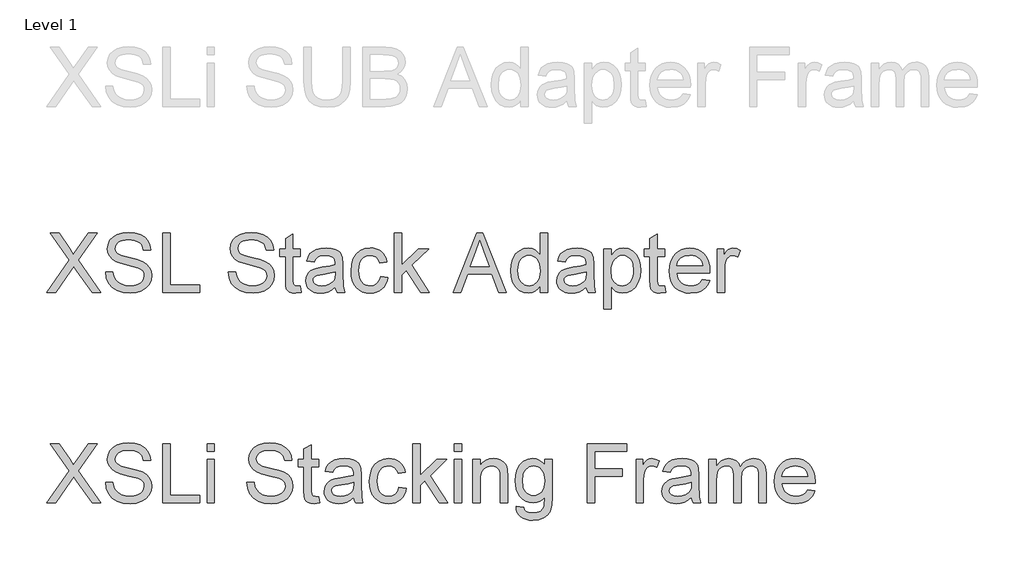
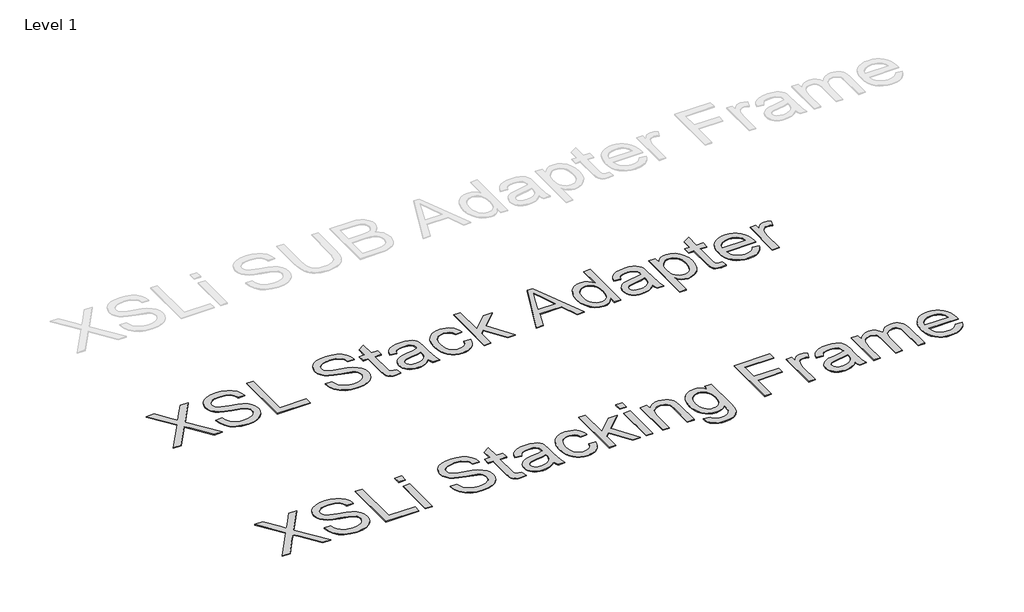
# One storey, part 27 of 52: 2 proxies.
"""IFC4 building model written with IfcOpenShell, lengths in millimetres."""

from ifc_helpers import new_model, si_unit, origin, origin_with_axes, place, context, project, spatial, polyline, outline, extrude, element, save

model = new_model("IFC4")

# Units and contexts
model_context = context("Model", 3, world=origin())
ifc_project = project(units=[si_unit("LENGTHUNIT", "METRE", prefix="MILLI")], contexts=[model_context])

# Site, building, storey
site = spatial("IfcSite", under=ifc_project)
building = spatial("IfcBuilding", under=site)
storey = spatial("IfcBuildingStorey", under=building, Name="Level 1", Elevation=0.0)

# Proxies
placement = place(None, origin())
element("IfcBuildingElementProxy", 1, Name="400mm Arial", ObjectType="400mm Arial", at=placement, inside=storey, context=model_context, shape_type="SweptSolid", body=[
    extrude(outline(polyline([(8004.9788586, -68822.6117308), (8159.881704, -68603.6483673), (8030.0929361, -68420.7864902), (8090.3274814, -68420.7864902), (8163.4133711, -68523.695347), (8188.0369394, -68563.81901), (8216.8788878, -68523.008634), (8289.1799626, -68420.7864902), (8350.2974247, -68420.7864902), (8220.5086568, -68604.2369785), (8375.4115022, -68822.6117308), (8315.1769569, -68822.6117308), (8211.9737945, -68677.0285626), (8190.489486, -68646.8131881), (8166.8469364, -68679.9716186), (8066.0963207, -68822.6117308), (8004.9788586, -68822.6117308)])), origin_with_axes(), (0.0, 0.0, 1.0), 5.0),
    extrude(outline(polyline([(8406.8040992, -68684.4843044), (8457.0322542, -68684.4843044), (8462.7957388, -68712.3574969), (8473.219062, -68734.7615104), (8489.4794462, -68752.5424735), (8512.7541138, -68766.5465148), (8541.2036547, -68775.6332001), (8572.9886591, -68778.6620952), (8600.9722162, -68776.3689641), (8625.4731571, -68769.4895707), (8645.3265221, -68758.6002637), (8659.3673516, -68744.2773913), (8667.7182729, -68727.8330662), (8670.5019133, -68710.5794006), (8668.4172487, -68693.7671934), (8662.1632547, -68679.2358546), (8649.4590632, -68666.8382314), (8628.0238056, -68656.4271709), (8554.8888649, -68637.2482562), (8506.8802646, -68624.5563274), (8476.162118, -68612.4775352), (8451.158405, -68595.5794889), (8433.4387556, -68575.1007245), (8422.8805423, -68551.4827004), (8419.3611379, -68525.166875), (8423.7144082, -68495.7485781), (8436.774219, -68468.316844), (8458.1972139, -68445.0667019), (8487.6400362, -68428.1931811), (8522.9812332, -68417.9292734), (8562.0993521, -68414.5079709), (8604.4793579, -68418.0886889), (8641.561863, -68428.8308432), (8672.0224922, -68446.5137044), (8694.5368703, -68470.9165435), (8708.7861663, -68500.5187813), (8714.451549, -68533.7998392), (8664.2233939, -68533.7998392), (8655.0018186, -68503.8297193), (8646.6386345, -68491.9716563), (8635.773853, -68482.198258), (8605.7301567, -68469.1016589), (8564.0613894, -68464.7361259), (8521.4116034, -68469.052608), (8505.1082996, -68474.4482106), (8492.152722, -68482.0020542), (8475.2301503, -68501.0583416), (8469.589293, -68523.695347), (8473.586944, -68542.996889), (8485.5798971, -68558.5215092), (8513.9313362, -68572.4029232), (8567.5930565, -68586.5786427), (8622.9715595, -68600.0431238), (8656.4733465, -68611.7908221), (8685.1068285, -68630.0132436), (8705.0828208, -68652.5030963), (8716.8182565, -68679.0151254), (8720.7300684, -68709.3040763), (8716.2296453, -68740.2674776), (8702.7283761, -68769.3914689), (8680.7780837, -68794.4564955), (8650.9305912, -68813.2430027), (8615.0375712, -68824.9784383), (8574.9506964, -68828.8902502), (8525.7403482, -68824.67187), (8485.2365405, -68812.0167294), (8452.9732895, -68790.8757774), (8428.4846114, -68761.1999631), (8412.7637875, -68725.0494257), (8406.8040992, -68684.4843044)])), origin_with_axes(), (0.0, 0.0, 1.0), 5.0),
    extrude(outline(polyline([(8796.072301, -68822.6117308), (8796.072301, -68420.7864902), (8846.3004561, -68420.7864902), (8846.3004561, -68772.3835758), (9047.2130764, -68772.3835758), (9047.2130764, -68822.6117308), (8796.072301, -68822.6117308)])), origin_with_axes(), (0.0, 0.0, 1.0), 5.0),
    extrude(outline(polyline([(9097.4412314, -68822.6117308), (9097.4412314, -68527.5213198), (9147.6693865, -68527.5213198), (9147.6693865, -68822.6117308), (9097.4412314, -68822.6117308)])), origin_with_axes(), (0.0, 0.0, 1.0), 5.0),
    extrude(outline(polyline([(9097.4412314, -68471.0146453), (9097.4412314, -68420.7864902), (9147.6693865, -68420.7864902), (9147.6693865, -68471.0146453), (9097.4412314, -68471.0146453)])), origin_with_axes(), (0.0, 0.0, 1.0), 5.0),
    extrude(outline(polyline([(9367.417565, -68684.4843044), (9417.64572, -68684.4843044), (9423.4092046, -68712.3574969), (9433.8325278, -68734.7615104), (9450.092912, -68752.5424735), (9473.3675796, -68766.5465148), (9501.8171205, -68775.6332001), (9533.6021249, -68778.6620952), (9561.585682, -68776.3689641), (9586.0866229, -68769.4895707), (9605.9399879, -68758.6002637), (9619.9808174, -68744.2773913), (9628.3317387, -68727.8330662), (9631.1153791, -68710.5794006), (9629.0307145, -68693.7671934), (9622.7767205, -68679.2358546), (9610.072529, -68666.8382314), (9588.6372714, -68656.4271709), (9515.5023308, -68637.2482562), (9467.4937304, -68624.5563274), (9436.7755838, -68612.4775352), (9411.7718708, -68595.5794889), (9394.0522214, -68575.1007245), (9383.4940081, -68551.4827004), (9379.9746037, -68525.166875), (9384.327874, -68495.7485781), (9397.3876848, -68468.316844), (9418.8106797, -68445.0667019), (9448.253502, -68428.1931811), (9483.594699, -68417.9292734), (9522.7128179, -68414.5079709), (9565.0928237, -68418.0886889), (9602.1753288, -68428.8308432), (9632.635958, -68446.5137044), (9655.1503361, -68470.9165435), (9669.3996321, -68500.5187813), (9675.0650148, -68533.7998392), (9624.8368597, -68533.7998392), (9615.6152844, -68503.8297193), (9607.2521003, -68491.9716563), (9596.3873188, -68482.198258), (9566.3436225, -68469.1016589), (9524.6748552, -68464.7361259), (9482.0250692, -68469.052608), (9465.7217654, -68474.4482106), (9452.7661878, -68482.0020542), (9435.8436161, -68501.0583416), (9430.2027588, -68523.695347), (9434.2004098, -68542.996889), (9446.1933629, -68558.5215092), (9474.544802, -68572.4029232), (9528.2065223, -68586.5786427), (9583.5850253, -68600.0431238), (9617.0868124, -68611.7908221), (9645.7202943, -68630.0132436), (9665.6962866, -68652.5030963), (9677.4317223, -68679.0151254), (9681.3435342, -68709.3040763), (9676.8431111, -68740.2674776), (9663.3418419, -68769.3914689), (9641.3915495, -68794.4564955), (9611.544057, -68813.2430027), (9575.651037, -68824.9784383), (9535.5641622, -68828.8902502), (9486.353814, -68824.67187), (9445.8500063, -68812.0167294), (9413.5867554, -68790.8757774), (9389.0980772, -68761.1999631), (9373.3772533, -68725.0494257), (9367.417565, -68684.4843044)])), origin_with_axes(), (0.0, 0.0, 1.0), 5.0),
    extrude(outline(polyline([(9857.1420769, -68780.7222343), (9863.4205963, -68824.0832588), (9825.8475819, -68828.8902502), (9801.7390485, -68826.8055856), (9783.7618816, -68820.5515917), (9771.0576901, -68810.9130834), (9762.7680824, -68798.6748757), (9758.2063457, -68777.656551), (9756.6857668, -68741.6776919), (9756.6857668, -68577.7494749), (9719.0146505, -68577.7494749), (9719.0146505, -68527.5213198), (9756.6857668, -68527.5213198), (9756.6857668, -68455.8088562), (9806.9139219, -68426.2801947), (9806.9139219, -68527.5213198), (9857.1420769, -68527.5213198), (9857.1420769, -68577.7494749), (9806.9139219, -68577.7494749), (9806.9139219, -68740.2061639), (9809.5626722, -68766.1050564), (9818.1465855, -68775.2775808), (9835.265361, -68778.6620952), (9857.1420769, -68780.7222343)])), origin_with_axes(), (0.0, 0.0, 1.0), 5.0),
    extrude(outline(polyline([(10095.7258135, -68784.9406145), (10071.7276447, -68805.5174808), (10047.0182374, -68818.9819618), (10021.0335058, -68826.4131781), (9993.2093642, -68828.8902502), (9970.8452046, -68827.4003281), (9951.2340286, -68822.9305619), (9934.3758361, -68815.4809515), (9920.2706273, -68805.0514969), (9909.1329999, -68792.3043858), (9901.1775518, -68777.9018057), (9896.4042829, -68761.8437566), (9894.8131932, -68744.1302385), (9897.2166889, -68723.3081176), (9904.4271761, -68704.3989831), (9915.549475, -68688.2121753), (9929.6884064, -68675.5570346), (9946.3044098, -68665.9921028), (9964.8579251, -68659.0759213), (10008.3170515, -68651.5220776), (10059.673378, -68643.5758265), (10095.4315079, -68634.2561493), (10095.7258135, -68623.0725367), (10092.2677228, -68600.6562604), (10081.8934505, -68585.9900315), (10058.6923594, -68575.1007245), (10026.3677947, -68571.4709555), (9996.4467258, -68573.8867139), (9975.5510285, -68581.1339892), (9961.3017325, -68594.5371566), (9951.3198677, -68615.4205912), (9901.0917126, -68609.1420718), (9909.8105159, -68581.6735495), (9922.8212758, -68560.0911391), (9941.3380029, -68543.5855002), (9966.5747078, -68531.3472925), (9997.4400072, -68523.7689234), (10032.8425178, -68521.2428004), (10066.798026, -68523.4746178), (10093.7147253, -68530.1700701), (10114.0095487, -68540.2377741), (10128.0994291, -68552.5863464), (10137.4436318, -68567.8534492), (10143.501422, -68586.6767446), (10145.9539686, -68630.6263803), (10145.9539686, -68693.1172685), (10148.5046171, -68780.3788778), (10158.5110074, -68822.6117308), (10108.2828523, -68822.6117308), (10100.2384994, -68805.1495988), (10095.7258135, -68784.9406145)]), holes=[polyline([(10095.7258135, -68684.4843044), (10061.9787719, -68692.8474884), (10014.6936727, -68699.8862973), (9971.479801, -68708.0287521), (9960.2348747, -68713.5960329), (9951.9084789, -68721.2725039), (9946.758131, -68730.4695538), (9945.0413483, -68740.5985714), (9948.7814819, -68755.5345804), (9960.0018828, -68767.7727881), (9978.4572962, -68775.9397684), (10003.9024675, -68778.6620952), (10030.8804805, -68775.6577255), (10054.7192338, -68766.6446166), (10074.0453013, -68753.3640766), (10087.4852569, -68737.5574136), (10093.4449452, -68721.2725039), (10095.4315079, -68698.7090749), (10095.7258135, -68684.4843044)])]), origin_with_axes(), (0.0, 0.0, 1.0), 5.0),
    extrude(outline(polyline([(10403.3732634, -68715.8769013), (10453.6014185, -68722.1554207), (10448.1383708, -68745.8562182), (10439.5973772, -68766.8285576), (10427.9784375, -68785.0724389), (10413.2815518, -68800.5878621), (10396.1259881, -68812.9701569), (10377.1310144, -68821.8146532), (10356.2966307, -68827.121351), (10333.6228371, -68828.8902502), (10305.4522733, -68826.4223752), (10280.1941087, -68819.01875), (10257.8483431, -68806.6793748), (10238.4149767, -68789.4042494), (10222.6849558, -68767.5183364), (10211.4492265, -68741.3465981), (10204.7077889, -68710.8890346), (10202.4606431, -68676.1456458), (10206.2988786, -68631.4479834), (10217.813585, -68592.7100093), (10237.1887034, -68561.427777), (10264.6081748, -68539.0973399), (10297.410986, -68525.7064353), (10332.936124, -68521.2428004), (10355.2205759, -68522.775642), (10375.3774435, -68527.374167), (10393.406727, -68535.0383752), (10409.3084262, -68545.7682667), (10422.8127611, -68559.3185869), (10433.6499516, -68575.444081), (10441.8199976, -68594.1447491), (10447.3228991, -68615.4205912), (10397.094744, -68621.6991105), (10387.9835332, -68599.7856064), (10373.795551, -68584.0770452), (10355.3156121, -68574.6224779), (10333.3285315, -68571.4709555), (10316.2618726, -68573.0221912), (10300.8690768, -68577.6758985), (10287.1501441, -68585.4320772), (10275.1050744, -68596.2907274), (10265.2979535, -68610.5032352), (10258.2928672, -68628.3209865), (10254.0898154, -68649.7439813), (10252.6887982, -68674.7722197), (10258.1702399, -68721.8488524), (10265.022042, -68739.7861653), (10274.6145651, -68753.989476), (10286.4205114, -68764.7837469), (10299.9125836, -68772.4939404), (10315.0907816, -68777.1200565), (10331.9551054, -68778.6620952), (10357.9643624, -68774.8115969), (10379.2892554, -68763.2601023), (10394.8016129, -68743.7133056), (10403.3732634, -68715.8769013)])), origin_with_axes(), (0.0, 0.0, 1.0), 5.0),
    extrude(outline(polyline([(10497.5510541, -68822.6117308), (10497.5510541, -68420.7864902), (10547.7792092, -68420.7864902), (10547.7792092, -68636.708696), (10660.4001507, -68527.5213198), (10729.8562714, -68527.5213198), (10615.8619038, -68638.0821221), (10736.1347907, -68822.6117308), (10677.4698753, -68822.6117308), (10579.8585192, -68673.0063861), (10547.7792092, -68704.1046775), (10547.7792092, -68822.6117308), (10497.5510541, -68822.6117308)])), origin_with_axes(), (0.0, 0.0, 1.0), 5.0),
    extrude(outline(polyline([(10780.0844264, -68822.6117308), (10780.0844264, -68527.5213198), (10830.3125815, -68527.5213198), (10830.3125815, -68822.6117308), (10780.0844264, -68822.6117308)])), origin_with_axes(), (0.0, 0.0, 1.0), 5.0),
    extrude(outline(polyline([(10780.0844264, -68471.0146453), (10780.0844264, -68420.7864902), (10830.3125815, -68420.7864902), (10830.3125815, -68471.0146453), (10780.0844264, -68471.0146453)])), origin_with_axes(), (0.0, 0.0, 1.0), 5.0),
    extrude(outline(polyline([(10905.6548141, -68822.6117308), (10905.6548141, -68527.5213198), (10955.8829692, -68527.5213198), (10955.8829692, -68568.7241032), (10973.3328385, -68547.9510332), (10994.2898495, -68533.1131261), (11018.7540022, -68524.2103818), (11046.7252965, -68521.2428004), (11071.4837548, -68523.6340334), (11094.1575485, -68530.8077323), (11113.066683, -68541.8687176), (11126.531164, -68555.9218098), (11135.6669002, -68572.9302207), (11141.5898004, -68592.8571621), (11144.2385507, -68641.4175855), (11144.2385507, -68822.6117308), (11094.0103957, -68822.6117308), (11094.0103957, -68648.1866142), (11092.5633931, -68622.2141453), (11088.2223856, -68603.7464692), (11080.2148208, -68590.5149801), (11067.7681467, -68580.2510724), (11051.8143308, -68573.6659847), (11033.285341, -68571.4709555), (11003.8670441, -68576.4005742), (10978.7897548, -68591.1894304), (10968.7680361, -68603.2620912), (10961.6096656, -68619.7615987), (10957.3146433, -68640.6879529), (10955.8829692, -68666.0411537), (10955.8829692, -68822.6117308), (10905.6548141, -68822.6117308)])), origin_with_axes(), (0.0, 0.0, 1.0), 5.0),
    extrude(outline(polyline([(11200.7452252, -68847.7258084), (11250.9733803, -68854.0043278), (11256.5161357, -68869.7006262), (11267.2582899, -68880.4918314), (11288.3747164, -68888.8795409), (11316.014917, -68891.6754441), (11345.4945276, -68888.5116589), (11367.4202945, -68879.0203034), (11382.6260836, -68863.8145143), (11391.9457608, -68843.5074282), (11395.3793261, -68784.9406145), (11378.6652208, -68801.4217279), (11360.0136036, -68813.1939518), (11339.4244746, -68820.2572861), (11316.8978338, -68822.6117308), (11289.3588008, -68819.87101), (11265.1123116, -68811.6488474), (11244.1583663, -68797.9452431), (11226.4969649, -68778.760197), (11212.4837265, -68755.7430469), (11202.4742706, -68730.5431302), (11196.468597, -68703.160447), (11194.4667058, -68673.5949973), (11198.0596866, -68633.0421387), (11208.8386291, -68595.7511672), (11226.4233885, -68564.1501038), (11250.43382, -68540.6669697), (11280.0483206, -68526.0988427), (11314.4452872, -68521.2428004), (11337.9345526, -68523.9896526), (11359.2533142, -68532.2302093), (11378.401572, -68545.9644705), (11395.3793261, -68565.1924361), (11395.3793261, -68527.5213198), (11445.6074812, -68527.5213198), (11445.6074812, -68782.2918642), (11442.1739159, -68841.1161952), (11431.87322, -68879.8541693), (11414.1290451, -68905.5445953), (11388.3650427, -68925.226282), (11355.1452986, -68937.7342699), (11315.0338984, -68941.9035991), (11290.4256586, -68940.4351369), (11268.3006222, -68936.02975), (11248.6587894, -68928.6874385), (11231.50016, -68918.4082024), (11217.6402058, -68905.179779), (11207.8943986, -68888.9899055), (11202.2627384, -68869.838582), (11200.7452252, -68847.7258084)]), holes=[polyline([(11244.6948609, -68670.161432), (11250.0536753, -68716.2325206), (11256.7521933, -68733.8693966), (11266.1301185, -68747.9071604), (11277.5313946, -68758.6155921), (11290.2999656, -68766.2644719), (11304.4358312, -68770.8537998), (11319.9389916, -68772.3835758), (11335.2888679, -68770.8629969), (11349.3572885, -68766.3012601), (11362.1442535, -68758.6983656), (11373.6497629, -68748.0543132), (11383.1564468, -68734.1545051), (11389.9469353, -68716.7843436), (11395.3793261, -68671.63296), (11389.7875198, -68628.0879945), (11382.7977619, -68610.8864456), (11373.0121008, -68596.7321858), (11361.2582711, -68585.6803975), (11348.3640071, -68577.7862631), (11334.329309, -68573.0497824), (11319.1541767, -68571.4709555), (11304.2334961, -68573.0252569), (11290.4716438, -68577.6881612), (11266.4244241, -68596.3397783), (11256.9177402, -68610.2794403), (11250.1272517, -68627.2296032), (11244.6948609, -68670.161432)])]), origin_with_axes(), (0.0, 0.0, 1.0), 5.0),
    extrude(outline(polyline([(11684.1912178, -68822.6117308), (11684.1912178, -68420.7864902), (11954.1675513, -68420.7864902), (11954.1675513, -68471.0146453), (11734.4193729, -68471.0146453), (11734.4193729, -68590.3065136), (11922.7749544, -68590.3065136), (11922.7749544, -68640.5346687), (11734.4193729, -68640.5346687), (11734.4193729, -68822.6117308), (11684.1912178, -68822.6117308)])), origin_with_axes(), (0.0, 0.0, 1.0), 5.0),
    extrude(outline(polyline([(12016.9527452, -68822.6117308), (12016.9527452, -68527.5213198), (12060.9023808, -68527.5213198), (12060.9023808, -68571.1766499), (12077.1382396, -68545.8663686), (12092.098774, -68530.9548851), (12107.1083594, -68523.6708216), (12123.491371, -68521.2428004), (12148.5073466, -68525.1178241), (12173.9157298, -68536.7428951), (12157.1403108, -68581.7716513), (12139.481975, -68574.0461294), (12121.8236392, -68571.4709555), (12106.8263166, -68573.9480276), (12093.4231492, -68581.3792439), (12082.5951558, -68593.2005187), (12075.3233551, -68608.8477662), (12069.2165139, -68636.9048997), (12067.1809002, -68667.5126817), (12067.1809002, -68822.6117308), (12016.9527452, -68822.6117308)])), origin_with_axes(), (0.0, 0.0, 1.0), 5.0),
    extrude(outline(polyline([(12393.6639082, -68784.9406145), (12369.6657394, -68805.5174808), (12344.9563321, -68818.9819618), (12318.9716005, -68826.4131781), (12291.1474589, -68828.8902502), (12268.7832993, -68827.4003281), (12249.1721232, -68822.9305619), (12232.3139308, -68815.4809515), (12218.208722, -68805.0514969), (12207.0710946, -68792.3043858), (12199.1156464, -68777.9018057), (12194.3423775, -68761.8437566), (12192.7512879, -68744.1302385), (12195.1547836, -68723.3081176), (12202.3652707, -68704.3989831), (12213.4875697, -68688.2121753), (12227.6265011, -68675.5570346), (12244.2425045, -68665.9921028), (12262.7960198, -68659.0759213), (12306.2551462, -68651.5220776), (12357.6114727, -68643.5758265), (12393.3696026, -68634.2561493), (12393.6639082, -68623.0725367), (12390.2058175, -68600.6562604), (12379.8315452, -68585.9900315), (12356.630454, -68575.1007245), (12324.3058894, -68571.4709555), (12294.3848205, -68573.8867139), (12273.4891231, -68581.1339892), (12259.2398272, -68594.5371566), (12249.2579624, -68615.4205912), (12199.0298073, -68609.1420718), (12207.7486106, -68581.6735495), (12220.7593705, -68560.0911391), (12239.2760976, -68543.5855002), (12264.5128024, -68531.3472925), (12295.3781018, -68523.7689234), (12330.7806125, -68521.2428004), (12364.7361207, -68523.4746178), (12391.65282, -68530.1700701), (12411.9476434, -68540.2377741), (12426.0375238, -68552.5863464), (12435.3817265, -68567.8534492), (12441.4395167, -68586.6767446), (12443.8920633, -68630.6263803), (12443.8920633, -68693.1172685), (12446.4427118, -68780.3788778), (12456.4491021, -68822.6117308), (12406.220947, -68822.6117308), (12398.176594, -68805.1495988), (12393.6639082, -68784.9406145)]), holes=[polyline([(12393.6639082, -68684.4843044), (12359.9168665, -68692.8474884), (12312.6317674, -68699.8862973), (12269.4178957, -68708.0287521), (12258.1729694, -68713.5960329), (12249.8465736, -68721.2725039), (12244.6962256, -68730.4695538), (12242.979443, -68740.5985714), (12246.7195766, -68755.5345804), (12257.9399775, -68767.7727881), (12276.3953909, -68775.9397684), (12301.8405622, -68778.6620952), (12328.8185752, -68775.6577255), (12352.6573285, -68766.6446166), (12371.983396, -68753.3640766), (12385.4233515, -68737.5574136), (12391.3830398, -68721.2725039), (12393.3696026, -68698.7090749), (12393.6639082, -68684.4843044)])]), origin_with_axes(), (0.0, 0.0, 1.0), 5.0),
    extrude(outline(polyline([(12512.9557765, -68822.6117308), (12512.9557765, -68527.5213198), (12563.1839316, -68527.5213198), (12563.1839316, -68576.0817431), (12578.2916189, -68553.7758315), (12597.7157882, -68536.3014367), (12620.794252, -68525.0074595), (12646.8648228, -68521.2428004), (12674.7993289, -68525.0810359), (12697.1910797, -68536.5957423), (12713.9174478, -68555.0266303), (12724.8558057, -68579.6134103), (12743.1640664, -68554.0762685), (12764.047501, -68535.8354529), (12787.5061095, -68524.8909635), (12813.539892, -68521.2428004), (12833.6477088, -68522.7603136), (12851.2968475, -68527.3128533), (12866.4873082, -68534.9004195), (12879.2190909, -68545.5230121), (12889.2837292, -68559.3032585), (12896.4727565, -68576.363786), (12900.7861729, -68596.7045947), (12902.2239783, -68620.3256844), (12902.2239783, -68822.6117308), (12851.9958233, -68822.6117308), (12851.9958233, -68641.9080948), (12850.8308636, -68616.8553309), (12847.3359847, -68599.9695474), (12840.7876852, -68588.40579), (12830.4624638, -68579.3191047), (12817.1819238, -68573.4329928), (12801.7676682, -68571.4709555), (12774.5566633, -68576.4986761), (12752.373379, -68591.5818379), (12743.768006, -68603.1517266), (12737.621311, -68617.7505105), (12732.703955, -68656.0347634), (12732.703955, -68822.6117308), (12682.4757999, -68822.6117308), (12682.4757999, -68636.3162885), (12679.5695321, -68607.9157985), (12670.8507289, -68587.6577633), (12655.5100497, -68575.5176574), (12632.7381541, -68571.4709555), (12613.3875612, -68574.1687568), (12595.5575472, -68582.2621607), (12580.8422674, -68595.5549634), (12570.8358771, -68613.8509613), (12565.096918, -68639.234819), (12563.1839316, -68673.7912011), (12563.1839316, -68822.6117308), (12512.9557765, -68822.6117308)])), origin_with_axes(), (0.0, 0.0, 1.0), 5.0),
    extrude(outline(polyline([(13184.1687395, -68734.7124595), (13233.4158759, -68740.9909788), (13225.8650979, -68760.7155852), (13215.671701, -68778.0980094), (13202.835685, -68793.1382517), (13187.3570501, -68805.8363119), (13169.3952117, -68815.9224099), (13149.1095853, -68823.1267656), (13101.5669688, -68828.8902502), (13070.4012324, -68826.4039811), (13042.6322732, -68818.9451736), (13018.260091, -68806.5138279), (12997.2846859, -68789.1099438), (12980.4172964, -68767.2178994), (12968.3691611, -68741.3220726), (12961.1402799, -68711.4224635), (12958.7306528, -68677.5190719), (12961.1648053, -68642.4660492), (12968.4672629, -68611.5700929), (12980.6380256, -68584.8312033), (12997.6770934, -68562.2493801), (13018.5973162, -68544.3090015), (13042.411544, -68531.4944453), (13069.1197768, -68523.8057116), (13098.7220147, -68521.2428004), (13127.3708251, -68523.7995803), (13153.2789146, -68531.4699199), (13176.4462832, -68544.2538192), (13196.872931, -68562.1512783), (13213.5471825, -68584.6840505), (13225.457362, -68611.3738892), (13232.6034698, -68642.2207945), (13234.9855057, -68677.2247664), (13234.6912001, -68690.7628238), (13008.9588079, -68690.7628238), (13011.8681413, -68710.8062611), (13017.6530857, -68728.3603637), (13026.313641, -68743.4251314), (13037.8498072, -68756.0005643), (13051.6239223, -68765.914984), (13066.998324, -68772.9967124), (13102.5479875, -68778.6620952), (13129.2807458, -68776.0378703), (13151.7951239, -68768.1651956), (13170.0911218, -68754.5535617), (13184.1687395, -68734.7124595)]), holes=[polyline([(13008.9588079, -68640.5346687), (13184.7573506, -68640.5346687), (13177.9637965, -68613.9981141), (13164.6464682, -68595.0154032), (13150.9489953, -68584.7147073), (13135.3630614, -68577.3570674), (13117.8886667, -68572.9424835), (13098.525811, -68571.4709555), (13064.6684047, -68576.1675823), (13036.6725849, -68590.2574627), (13017.2116273, -68612.2200178), (13008.9588079, -68640.5346687)])]), origin_with_axes(), (0.0, 0.0, 1.0), 5.0),
])
element("IfcBuildingElementProxy", 2, Name="400mm Arial", ObjectType="400mm Arial", at=placement, inside=storey, context=model_context, shape_type="SweptSolid", body=[
    extrude(outline(polyline([(8004.9788586, -67388.5375571), (8159.7836021, -67169.5741936), (8030.0929361, -66986.7123165), (8090.2293796, -66986.7123165), (8163.3152693, -67089.7192752), (8187.9388375, -67129.8429381), (8216.7807859, -67088.8363584), (8289.0818607, -66986.7123165), (8350.2974247, -66986.7123165), (8220.5086568, -67170.2609067), (8375.4115022, -67388.5375571), (8315.1769569, -67388.5375571), (8211.8756926, -67243.0524908), (8190.3913841, -67212.9352181), (8166.9450383, -67245.9955467), (8066.1944226, -67388.5375571), (8004.9788586, -67388.5375571)])), origin_with_axes(), (0.0, 0.0, 1.0), 5.0),
    extrude(outline(polyline([(8406.8040992, -67250.4101307), (8457.0322542, -67250.4101307), (8462.7957388, -67278.2833232), (8473.219062, -67300.6873367), (8489.4794462, -67318.4682998), (8512.7541138, -67332.4723411), (8541.2036547, -67341.5590264), (8572.9886591, -67344.5879214), (8600.9722162, -67342.2947903), (8625.4731571, -67335.415397), (8645.3265221, -67324.52609), (8659.3673516, -67310.2032176), (8667.7182729, -67293.7588924), (8670.5019133, -67276.5052269), (8668.4172487, -67259.6930197), (8662.1632547, -67245.1616809), (8649.4590632, -67232.7640576), (8628.0238056, -67222.3529972), (8554.8888649, -67203.1740825), (8506.8802646, -67190.4821537), (8476.162118, -67178.4033615), (8451.158405, -67161.5053152), (8433.4387556, -67141.0265508), (8422.8805423, -67117.4085267), (8419.3611379, -67091.0927013), (8423.7144082, -67061.6744044), (8436.774219, -67034.2426703), (8458.1972139, -67010.9925282), (8487.6400362, -66994.1190074), (8522.9812332, -66983.8550997), (8562.0993521, -66980.4337972), (8604.4793579, -66984.0145152), (8641.561863, -66994.7566695), (8672.0224922, -67012.4395307), (8694.5368703, -67036.8423697), (8708.7861663, -67066.4446076), (8714.451549, -67099.7256655), (8664.2233939, -67099.7256655), (8655.0018186, -67069.7555456), (8646.6386345, -67057.8974826), (8635.773853, -67048.1240843), (8605.7301567, -67035.0274852), (8564.0613894, -67030.6619522), (8521.4116034, -67034.9784343), (8505.1082996, -67040.3740369), (8492.152722, -67047.9278805), (8475.2301503, -67066.9841679), (8469.589293, -67089.6211733), (8473.586944, -67108.9227153), (8485.5798971, -67124.4473355), (8513.9313362, -67138.3287495), (8567.5930565, -67152.504469), (8622.9715595, -67165.9689501), (8656.4733465, -67177.7166484), (8685.1068285, -67195.9390699), (8705.0828208, -67218.4289226), (8716.8182565, -67244.9409517), (8720.7300684, -67275.2299026), (8716.2296453, -67306.1933039), (8702.7283761, -67335.3172952), (8680.7780837, -67360.3823218), (8650.9305912, -67379.168829), (8615.0375712, -67390.9042646), (8574.9506964, -67394.8160765), (8525.7403482, -67390.5976963), (8485.2365405, -67377.9425557), (8452.9732895, -67356.8016037), (8428.4846114, -67327.1257894), (8412.7637875, -67290.975252), (8406.8040992, -67250.4101307)])), origin_with_axes(), (0.0, 0.0, 1.0), 5.0),
    extrude(outline(polyline([(8796.072301, -67388.5375571), (8796.072301, -66986.7123165), (8846.3004561, -66986.7123165), (8846.3004561, -67338.3094021), (9047.2130764, -67338.3094021), (9047.2130764, -67388.5375571), (8796.072301, -67388.5375571)])), origin_with_axes(), (0.0, 0.0, 1.0), 5.0),
    extrude(outline(polyline([(9241.8471773, -67250.4101307), (9292.0753323, -67250.4101307), (9297.8388169, -67278.2833232), (9308.2621401, -67300.6873367), (9324.5225243, -67318.4682998), (9347.7971919, -67332.4723411), (9376.2467328, -67341.5590264), (9408.0317372, -67344.5879214), (9436.0152943, -67342.2947903), (9460.5162352, -67335.415397), (9480.3696002, -67324.52609), (9494.4104297, -67310.2032176), (9502.761351, -67293.7588924), (9505.5449914, -67276.5052269), (9503.4603268, -67259.6930197), (9497.2063329, -67245.1616809), (9484.5021413, -67232.7640576), (9463.0668837, -67222.3529972), (9389.9319431, -67203.1740825), (9341.9233427, -67190.4821537), (9311.2051961, -67178.4033615), (9286.2014832, -67161.5053152), (9268.4818337, -67141.0265508), (9257.9236205, -67117.4085267), (9254.404216, -67091.0927013), (9258.7574863, -67061.6744044), (9271.8172971, -67034.2426703), (9293.240292, -67010.9925282), (9322.6831143, -66994.1190074), (9358.0243114, -66983.8550997), (9397.1424302, -66980.4337972), (9439.522436, -66984.0145152), (9476.6049411, -66994.7566695), (9507.0655703, -67012.4395307), (9529.5799484, -67036.8423697), (9543.8292444, -67066.4446076), (9549.4946271, -67099.7256655), (9499.266472, -67099.7256655), (9490.0448967, -67069.7555456), (9481.6817127, -67057.8974826), (9470.8169311, -67048.1240843), (9440.7732348, -67035.0274852), (9399.1044675, -67030.6619522), (9356.4546815, -67034.9784343), (9340.1513778, -67040.3740369), (9327.1958002, -67047.9278805), (9310.2732284, -67066.9841679), (9304.6323711, -67089.6211733), (9308.6300221, -67108.9227153), (9320.6229752, -67124.4473355), (9348.9744143, -67138.3287495), (9402.6361346, -67152.504469), (9458.0146376, -67165.9689501), (9491.5164247, -67177.7166484), (9520.1499066, -67195.9390699), (9540.125899, -67218.4289226), (9551.8613346, -67244.9409517), (9555.7731465, -67275.2299026), (9551.2727234, -67306.1933039), (9537.7714542, -67335.3172952), (9515.8211618, -67360.3823218), (9485.9736693, -67379.168829), (9450.0806493, -67390.9042646), (9409.9937745, -67394.8160765), (9360.7834263, -67390.5976963), (9320.2796186, -67377.9425557), (9288.0163677, -67356.8016037), (9263.5276895, -67327.1257894), (9247.8068656, -67290.975252), (9241.8471773, -67250.4101307)])), origin_with_axes(), (0.0, 0.0, 1.0), 5.0),
    extrude(outline(polyline([(9731.5716893, -67346.6480606), (9737.8502086, -67390.0090851), (9700.2771942, -67394.8160765), (9676.1686608, -67392.7314119), (9658.1914939, -67386.477418), (9645.4873024, -67376.8389097), (9637.1976948, -67364.600702), (9632.635958, -67343.5823773), (9631.1153791, -67307.6035182), (9631.1153791, -67143.6753011), (9593.4442628, -67143.6753011), (9593.4442628, -67093.4471461), (9631.1153791, -67093.4471461), (9631.1153791, -67021.7346825), (9681.3435342, -66992.206021), (9681.3435342, -67093.4471461), (9731.5716893, -67093.4471461), (9731.5716893, -67143.6753011), (9681.3435342, -67143.6753011), (9681.3435342, -67306.1319902), (9683.9922845, -67332.0308827), (9692.5761978, -67341.2034071), (9709.6949733, -67344.5879214), (9731.5716893, -67346.6480606)])), origin_with_axes(), (0.0, 0.0, 1.0), 5.0),
    extrude(outline(polyline([(9970.1554259, -67350.8664408), (9946.157257, -67371.4433071), (9921.4478497, -67384.9077881), (9895.4631181, -67392.3390044), (9867.6389765, -67394.8160765), (9845.2748169, -67393.3261544), (9825.6636409, -67388.8563882), (9808.8054485, -67381.4067778), (9794.7002396, -67370.9773232), (9783.5626122, -67358.2302121), (9775.6071641, -67343.827632), (9770.8338952, -67327.7695829), (9769.2428056, -67310.0560648), (9771.6463013, -67289.2339439), (9778.8567884, -67270.3248094), (9789.9790874, -67254.1380016), (9804.1180187, -67241.4828609), (9820.7340222, -67231.9179291), (9839.2875374, -67225.0017475), (9882.7466638, -67217.4479039), (9934.1029903, -67209.5016528), (9969.8611203, -67200.1819756), (9970.1554259, -67188.998363), (9966.6973351, -67166.5820867), (9956.3230628, -67151.9158578), (9933.1219717, -67141.0265508), (9900.797407, -67137.3967818), (9870.8763381, -67139.8125402), (9849.9806408, -67147.0598155), (9835.7313448, -67160.4629829), (9825.74948, -67181.3464175), (9775.5213249, -67175.0678981), (9784.2401282, -67147.5993758), (9797.2508881, -67126.0169654), (9815.7676152, -67109.5113265), (9841.0043201, -67097.2731188), (9871.8696195, -67089.6947497), (9907.2721301, -67087.1686267), (9941.2276383, -67089.4004441), (9968.1443376, -67096.0958964), (9988.439161, -67106.1636004), (10002.5290414, -67118.5121727), (10011.8732441, -67133.7792755), (10017.9310343, -67152.6025709), (10020.3835809, -67196.5522066), (10020.3835809, -67259.0430948), (10022.9342294, -67346.3047041), (10032.9406197, -67388.5375571), (9982.7124646, -67388.5375571), (9974.6681117, -67371.0754251), (9970.1554259, -67350.8664408)]), holes=[polyline([(9970.1554259, -67250.4101307), (9936.4083842, -67258.7733147), (9889.1232851, -67265.8121235), (9845.9094134, -67273.9545784), (9834.664487, -67279.5218592), (9826.3380912, -67287.1983302), (9821.1877433, -67296.3953801), (9819.4709606, -67306.5243977), (9823.2110943, -67321.4604067), (9834.4314951, -67333.6986144), (9852.8869085, -67341.8655947), (9878.3320799, -67344.5879214), (9905.3100928, -67341.5835518), (9929.1488461, -67332.5704429), (9948.4749136, -67319.2899029), (9961.9148692, -67303.4832399), (9967.8745575, -67287.1983302), (9969.8611203, -67264.6349012), (9970.1554259, -67250.4101307)])]), origin_with_axes(), (0.0, 0.0, 1.0), 5.0),
    extrude(outline(polyline([(10277.8028757, -67281.8027276), (10328.0310308, -67288.081247), (10322.5679831, -67311.7820445), (10314.0269895, -67332.7543839), (10302.4080498, -67350.9982652), (10287.7111641, -67366.5136884), (10270.5556004, -67378.8959832), (10251.5606267, -67387.7404795), (10230.726243, -67393.0471773), (10208.0524494, -67394.8160765), (10179.8818856, -67392.3482015), (10154.623721, -67384.9445763), (10132.2779554, -67372.6052011), (10112.8445891, -67355.3300757), (10097.1145681, -67333.4441627), (10085.8788388, -67307.2724244), (10079.1374012, -67276.8148609), (10076.8902554, -67242.0714721), (10080.7284909, -67197.3738097), (10092.2431973, -67158.6358356), (10111.6183157, -67127.3536033), (10139.0377871, -67105.0231662), (10171.8405983, -67091.6322616), (10207.3657363, -67087.1686267), (10229.6501882, -67088.7014683), (10249.8070559, -67093.2999933), (10267.8363393, -67100.9642015), (10283.7380385, -67111.694093), (10297.2423735, -67125.2444132), (10308.0795639, -67141.3699073), (10316.2496099, -67160.0705754), (10321.7525114, -67181.3464175), (10271.5243563, -67187.6249368), (10262.4131456, -67165.7114327), (10248.2251633, -67150.0028715), (10229.7452244, -67140.5483042), (10207.7581438, -67137.3967818), (10190.6914849, -67138.9480175), (10175.2986891, -67143.6017247), (10161.5797564, -67151.3579035), (10149.5346867, -67162.2165537), (10139.7275659, -67176.4290614), (10132.7224795, -67194.2468127), (10128.5194277, -67215.6698076), (10127.1184105, -67240.698046), (10132.5998522, -67287.7746787), (10139.4516544, -67305.7119916), (10149.0441774, -67319.9153023), (10160.8501237, -67330.7095732), (10174.3421959, -67338.4197667), (10189.5203939, -67343.0458827), (10206.3847177, -67344.5879214), (10232.3939748, -67340.7374232), (10253.7188677, -67329.1859286), (10269.2312252, -67309.6391319), (10277.8028757, -67281.8027276)])), origin_with_axes(), (0.0, 0.0, 1.0), 5.0),
    extrude(outline(polyline([(10371.9806665, -67388.5375571), (10371.9806665, -66986.7123165), (10422.2088215, -66986.7123165), (10422.2088215, -67202.6345222), (10534.829763, -67093.4471461), (10604.2858837, -67093.4471461), (10490.1934142, -67204.0079484), (10610.5644031, -67388.5375571), (10551.8994876, -67388.5375571), (10454.1900296, -67238.9322124), (10422.2088215, -67270.0305038), (10422.2088215, -67388.5375571), (10371.9806665, -67388.5375571)])), origin_with_axes(), (0.0, 0.0, 1.0), 5.0),
    extrude(outline(polyline([(10771.0590548, -67388.5375571), (10931.4556047, -66986.7123165), (10974.228018, -66986.7123165), (11134.5264661, -67388.5375571), (11081.4533569, -67388.5375571), (11035.5416839, -67262.9671694), (10869.9457351, -67262.9671694), (10824.0340621, -67388.5375571), (10771.0590548, -67388.5375571)]), holes=[polyline([(10888.3888858, -67212.7390144), (11017.1966351, -67212.7390144), (10980.8989449, -67113.9504359), (10952.7437095, -67036.9404716), (10927.7277338, -67105.3174718), (10888.3888858, -67212.7390144)])]), origin_with_axes(), (0.0, 0.0, 1.0), 5.0),
    extrude(outline(polyline([(11363.9867292, -67388.5375571), (11363.9867292, -67341.1543562), (11348.9587497, -67364.6313588), (11330.7547223, -67381.4006464), (11309.374647, -67391.462219), (11284.8185238, -67394.8160765), (11252.3468064, -67389.9600342), (11222.6219412, -67375.3919072), (11197.4588127, -67352.1295023), (11178.6723055, -67321.1906266), (11166.973658, -67283.8260786), (11163.0741089, -67241.2866572), (11166.6670897, -67199.2745333), (11177.4460322, -67161.3336369), (11195.3986735, -67129.6222089), (11220.5127511, -67106.2984904), (11250.8875411, -67091.9510926), (11284.6223201, -67087.1686267), (11309.1968374, -67090.5899292), (11330.9264006, -67100.8538369), (11349.3450258, -67116.5869236), (11363.9867292, -67136.4157631), (11363.9867292, -66986.7123165), (11414.2148843, -66986.7123165), (11414.2148843, -67388.5375571), (11363.9867292, -67388.5375571)]), holes=[polyline([(11213.302264, -67241.0904535), (11214.7186096, -67265.4473072), (11218.9676467, -67286.5238799), (11226.0493751, -67304.3201714), (11235.9637949, -67318.8361818), (11260.6609395, -67338.1499865), (11274.5362221, -67342.9784377), (11289.4293115, -67344.5879214), (11304.3929116, -67343.0520141), (11318.1854208, -67338.4442921), (11342.257166, -67320.0134042), (11351.7638499, -67306.1043991), (11358.5543384, -67288.951901), (11363.9867292, -67244.9164262), (11358.4562365, -67196.7729358), (11351.5431207, -67178.2378146), (11341.8647585, -67163.3937761), (11330.1630454, -67152.0200911), (11317.1798767, -67143.8960303), (11302.9152523, -67139.0215939), (11287.3691723, -67137.3967818), (11272.1817773, -67138.9572146), (11258.3064947, -67143.6385129), (11245.7433246, -67151.4406769), (11234.4922669, -67162.3637065), (11225.2216406, -67176.646725), (11218.5997647, -67194.5288556), (11213.302264, -67241.0904535)])]), origin_with_axes(), (0.0, 0.0, 1.0), 5.0),
    extrude(outline(polyline([(11677.9126984, -67350.8664408), (11653.9145296, -67371.4433071), (11629.2051222, -67384.9077881), (11603.2203906, -67392.3390044), (11575.3962491, -67394.8160765), (11553.0320895, -67393.3261544), (11533.4209134, -67388.8563882), (11516.562721, -67381.4067778), (11502.4575122, -67370.9773232), (11491.3198848, -67358.2302121), (11483.3644366, -67343.827632), (11478.5911677, -67327.7695829), (11477.0000781, -67310.0560648), (11479.4035738, -67289.2339439), (11486.6140609, -67270.3248094), (11497.7363599, -67254.1380016), (11511.8752912, -67241.4828609), (11528.4912947, -67231.9179291), (11547.04481, -67225.0017475), (11590.5039363, -67217.4479039), (11641.8602629, -67209.5016528), (11677.6183928, -67200.1819756), (11677.9126984, -67188.998363), (11674.4546076, -67166.5820867), (11664.0803354, -67151.9158578), (11640.8792442, -67141.0265508), (11608.5546796, -67137.3967818), (11578.6336106, -67139.8125402), (11557.7379133, -67147.0598155), (11543.4886174, -67160.4629829), (11533.5067526, -67181.3464175), (11483.2785975, -67175.0678981), (11491.9974008, -67147.5993758), (11505.0081607, -67126.0169654), (11523.5248878, -67109.5113265), (11548.7615926, -67097.2731188), (11579.626892, -67089.6947497), (11615.0294027, -67087.1686267), (11648.9849108, -67089.4004441), (11675.9016102, -67096.0958964), (11696.1964336, -67106.1636004), (11710.286314, -67118.5121727), (11719.6305167, -67133.7792755), (11725.6883068, -67152.6025709), (11728.1408535, -67196.5522066), (11728.1408535, -67259.0430948), (11730.691502, -67346.3047041), (11740.6978922, -67388.5375571), (11690.4697372, -67388.5375571), (11682.4253842, -67371.0754251), (11677.9126984, -67350.8664408)]), holes=[polyline([(11677.9126984, -67250.4101307), (11644.1656567, -67258.7733147), (11596.8805576, -67265.8121235), (11553.6666859, -67273.9545784), (11542.4217596, -67279.5218592), (11534.0953638, -67287.1983302), (11528.9450158, -67296.3953801), (11527.2282332, -67306.5243977), (11530.9683668, -67321.4604067), (11542.1887676, -67333.6986144), (11560.6441811, -67341.8655947), (11586.0893524, -67344.5879214), (11613.0673654, -67341.5835518), (11636.9061187, -67332.5704429), (11656.2321862, -67319.2899029), (11669.6721417, -67303.4832399), (11675.63183, -67287.1983302), (11677.6183928, -67264.6349012), (11677.9126984, -67250.4101307)])]), origin_with_axes(), (0.0, 0.0, 1.0), 5.0),
    extrude(outline(polyline([(11797.2045667, -67501.5509061), (11797.2045667, -67093.4471461), (11847.4327218, -67093.4471461), (11847.4327218, -67142.6942825), (11863.8157333, -67118.4018081), (11882.1607821, -67101.0500406), (11903.5469888, -67090.6389802), (11929.0534738, -67087.1686267), (11963.0212447, -67092.024669), (11992.7215844, -67106.592796), (12016.9036942, -67129.9900909), (12034.3167753, -67161.3336369), (12044.8382004, -67198.3425656), (12048.3453421, -67238.7360087), (12044.3844793, -67281.692363), (12032.5018908, -67320.111506), (12013.0777215, -67352.0436632), (11986.492116, -67375.53906), (11955.5287147, -67389.9968224), (11922.9711581, -67394.8160765), (11899.8804316, -67391.5909777), (11879.2667771, -67381.9156812), (11861.6207041, -67367.310766), (11847.4327218, -67349.296811), (11847.4327218, -67501.5509061), (11797.2045667, -67501.5509061)]), holes=[polyline([(11847.4327218, -67243.3467964), (11852.8651126, -67288.3755526), (11859.6556011, -67305.8131592), (11869.162285, -67319.8662514), (11893.2095047, -67338.4075039), (11906.971357, -67343.0428171), (11921.8920376, -67344.5879214), (11937.027316, -67342.9876348), (11951.0405544, -67338.1867747), (11963.9317526, -67330.1853413), (11975.7009108, -67318.9833346), (11985.5080316, -67304.4213389), (11992.5131179, -67286.3399389), (11996.7161697, -67264.7391344), (11998.117187, -67239.6189255), (11992.648008, -67194.8354239), (11985.8115343, -67177.2629273), (11976.240471, -67162.9032668), (11952.2300395, -67143.773403), (11938.624537, -67138.9909371), (11923.9521768, -67137.3967818), (11909.3258018, -67139.0921046), (11895.5639495, -67144.1780732), (11870.6338129, -67164.5219475), (11860.4833356, -67179.6204378), (11853.2329946, -67197.7907426), (11848.88279, -67219.0328622), (11847.4327218, -67243.3467964)])]), origin_with_axes(), (0.0, 0.0, 1.0), 5.0),
    extrude(outline(polyline([(12211.5868461, -67346.6480606), (12217.8653655, -67390.0090851), (12180.292351, -67394.8160765), (12156.1838176, -67392.7314119), (12138.2066508, -67386.477418), (12125.5024592, -67376.8389097), (12117.2128516, -67364.600702), (12112.6511148, -67343.5823773), (12111.1305359, -67307.6035182), (12111.1305359, -67143.6753011), (12073.4594196, -67143.6753011), (12073.4594196, -67093.4471461), (12111.1305359, -67093.4471461), (12111.1305359, -67021.7346825), (12161.358691, -66992.206021), (12161.358691, -67093.4471461), (12211.5868461, -67093.4471461), (12211.5868461, -67143.6753011), (12161.358691, -67143.6753011), (12161.358691, -67306.1319902), (12164.0074414, -67332.0308827), (12172.5913546, -67341.2034071), (12189.7101301, -67344.5879214), (12211.5868461, -67346.6480606)])), origin_with_axes(), (0.0, 0.0, 1.0), 5.0),
    extrude(outline(polyline([(12468.4175296, -67300.6382858), (12517.6646661, -67306.9168051), (12510.1138881, -67326.6414114), (12499.9204912, -67344.0238357), (12487.0844752, -67359.064078), (12471.6058403, -67371.7621382), (12453.6440018, -67381.8482362), (12433.3583755, -67389.0525919), (12385.815759, -67394.8160765), (12354.6500226, -67392.3298074), (12326.8810634, -67384.8709999), (12302.5088812, -67372.4396542), (12281.5334761, -67355.0357701), (12264.6660866, -67333.1437257), (12252.6179513, -67307.2478989), (12245.3890701, -67277.3482898), (12242.979443, -67243.4448982), (12245.4135955, -67208.3918755), (12252.7160531, -67177.4959192), (12264.8868158, -67150.7570296), (12281.9258835, -67128.1752064), (12302.8461063, -67110.2348278), (12326.6603342, -67097.4202716), (12353.368567, -67089.7315379), (12382.9708049, -67087.1686267), (12411.6196153, -67089.7254066), (12437.5277048, -67097.3957462), (12460.6950734, -67110.1796455), (12481.1217212, -67128.0771045), (12497.7959726, -67150.6098768), (12509.7061522, -67177.2997155), (12516.85226, -67208.1466208), (12519.2342959, -67243.1505926), (12518.9399903, -67256.6886501), (12293.2075981, -67256.6886501), (12296.1169315, -67276.7320874), (12301.9018759, -67294.28619), (12310.5624312, -67309.3509577), (12322.0985974, -67321.9263905), (12335.8727125, -67331.8408103), (12351.2471142, -67338.9225387), (12386.7967776, -67344.5879214), (12413.529536, -67341.9636965), (12436.0439141, -67334.0910218), (12454.339912, -67320.479388), (12468.4175296, -67300.6382858)]), holes=[polyline([(12293.2075981, -67206.460495), (12469.0061408, -67206.460495), (12462.2125867, -67179.9239404), (12448.8952584, -67160.9412295), (12435.1977855, -67150.6405336), (12419.6118516, -67143.2828937), (12402.1374568, -67138.8683097), (12382.7746012, -67137.3967818), (12348.9171949, -67142.0934086), (12320.921375, -67156.183289), (12301.4604175, -67178.1458441), (12293.2075981, -67206.460495)])]), origin_with_axes(), (0.0, 0.0, 1.0), 5.0),
    extrude(outline(polyline([(12569.462451, -67388.5375571), (12569.462451, -67093.4471461), (12613.4120867, -67093.4471461), (12613.4120867, -67137.1024762), (12629.6479454, -67111.7921949), (12644.6084799, -67096.8807114), (12659.6180653, -67089.5966479), (12676.0010768, -67087.1686267), (12701.0170525, -67091.0436504), (12726.4254356, -67102.6687214), (12709.6500166, -67147.6974776), (12691.9916808, -67139.9719557), (12674.3333451, -67137.3967818), (12659.3360224, -67139.8738539), (12645.932855, -67147.3050702), (12635.1048617, -67159.1263449), (12627.8330609, -67174.7735925), (12621.7262198, -67202.830726), (12619.6906061, -67233.438508), (12619.6906061, -67388.5375571), (12569.462451, -67388.5375571)])), origin_with_axes(), (0.0, 0.0, 1.0), 5.0),
])

save(model, "model.ifc")
